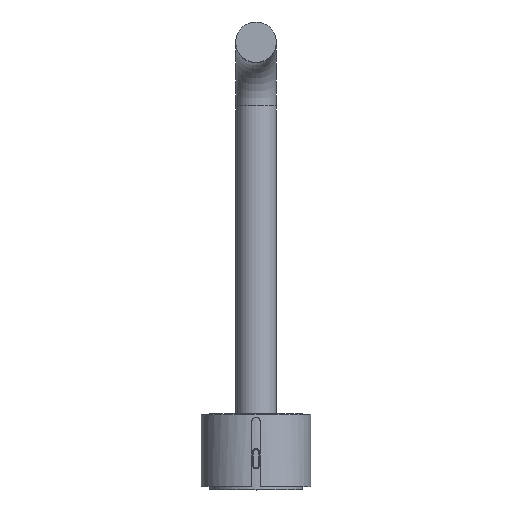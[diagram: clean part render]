
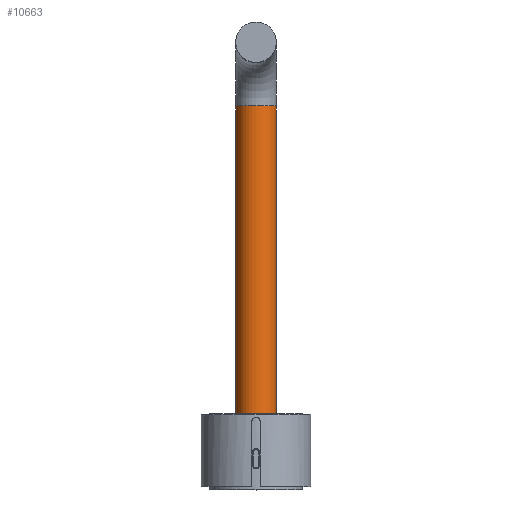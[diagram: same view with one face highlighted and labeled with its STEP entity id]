
A CAD part, top view. The second image highlights one B-rep face of the part: STEP entity #10663.
In plain terms, the highlighted cylindrical face has radius 12 mm (diameter 24 mm), a partial arc.
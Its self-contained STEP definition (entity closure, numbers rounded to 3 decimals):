
#4909=CARTESIAN_POINT('',(0.,277.2,-5.));
#4910=DIRECTION('',(0.,-1.,0.));
#4911=DIRECTION('',(1.,0.,0.));
#4912=AXIS2_PLACEMENT_3D('',#4909,#4910,#4911);
#4919=DIRECTION('',(0.,-1.,0.));
#4920=VECTOR('',#4919,182.5);
#4921=CARTESIAN_POINT('',(-12.,277.2,-5.));
#4922=LINE('',#4921,#4920);
#4923=DIRECTION('',(0.,-1.,0.));
#4924=VECTOR('',#4923,182.5);
#4925=CARTESIAN_POINT('',(12.,277.2,-5.));
#4926=LINE('',#4925,#4924);
#5029=CARTESIAN_POINT('',(0.,94.7,-5.));
#5030=DIRECTION('',(0.,-1.,0.));
#5031=DIRECTION('',(1.,0.,0.));
#5032=AXIS2_PLACEMENT_3D('',#5029,#5030,#5031);
#6982=CARTESIAN_POINT('',(12.,277.2,-5.));
#6983=CARTESIAN_POINT('',(12.,94.7,-5.));
#6984=VERTEX_POINT('',#6982);
#6985=VERTEX_POINT('',#6983);
#6986=CARTESIAN_POINT('',(-12.,94.7,-5.));
#6987=VERTEX_POINT('',#6986);
#6988=CARTESIAN_POINT('',(-12.,277.2,-5.));
#6989=VERTEX_POINT('',#6988);
#10649=CARTESIAN_POINT('',(0.,94.7,-5.));
#10650=DIRECTION('',(0.,-1.,0.));
#10651=DIRECTION('',(-1.,0.,0.));
#10652=AXIS2_PLACEMENT_3D('',#10649,#10650,#10651);
#10653=CYLINDRICAL_SURFACE('',#10652,12.);
#10654=ORIENTED_EDGE('',*,*,#10636,.F.);
#10656=ORIENTED_EDGE('',*,*,#10655,.T.);
#10658=ORIENTED_EDGE('',*,*,#10657,.T.);
#10660=ORIENTED_EDGE('',*,*,#10659,.F.);
#10661=EDGE_LOOP('',(#10654,#10656,#10658,#10660));
#10662=FACE_OUTER_BOUND('',#10661,.F.);
#4913=CIRCLE('',#4912,12.);
#5033=CIRCLE('',#5032,12.);
#10636=EDGE_CURVE('',#6984,#6989,#4913,.T.);
#10655=EDGE_CURVE('',#6984,#6985,#4926,.T.);
#10657=EDGE_CURVE('',#6985,#6987,#5033,.T.);
#10659=EDGE_CURVE('',#6989,#6987,#4922,.T.);
#10663=ADVANCED_FACE('',(#10662),#10653,.T.);
